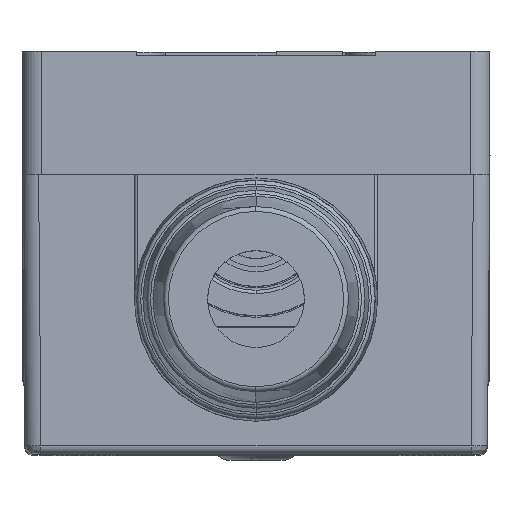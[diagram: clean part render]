
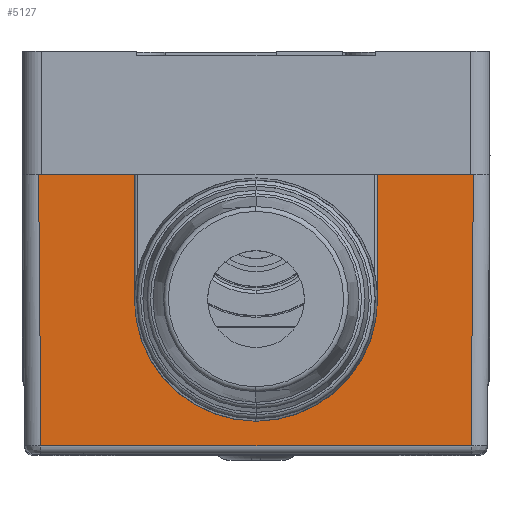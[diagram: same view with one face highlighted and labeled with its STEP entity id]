
A CAD part, top view. The second image highlights one B-rep face of the part: STEP entity #5127.
In plain terms, the highlighted planar face has unit normal (0, -0.009, 1).
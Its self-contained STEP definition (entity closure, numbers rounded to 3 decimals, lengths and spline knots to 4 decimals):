
#432=DIRECTION('',(1.,0.,0.));
#433=VECTOR('',#432,1.0311);
#434=CARTESIAN_POINT('',(-0.5136,-0.5414,
-1.3241));
#435=LINE('',#434,#433);
#681=DIRECTION('',(-0.009,1.,0.009));
#682=VECTOR('',#681,0.6971);
#683=CARTESIAN_POINT('',(-0.5136,-0.5414,
-1.3241));
#684=LINE('',#683,#682);
#685=CARTESIAN_POINT('',(-0.2224,-0.1908,
-1.3211));
#686=CARTESIAN_POINT('',(-0.2224,-0.2173,
-1.3213));
#687=CARTESIAN_POINT('',(-0.2129,-0.2744,
-1.3218));
#688=CARTESIAN_POINT('',(-0.1614,-0.3542,
-1.3225));
#689=CARTESIAN_POINT('',(-0.095,-0.397,
-1.3229));
#690=CARTESIAN_POINT('',(-0.0386,-0.4129,
-1.323));
#691=CARTESIAN_POINT('',(0.002,-0.4164,
-1.3231));
#692=CARTESIAN_POINT('',(0.0425,-0.4129,
-1.323));
#693=CARTESIAN_POINT('',(0.099,-0.397,
-1.3229));
#694=CARTESIAN_POINT('',(0.1654,-0.3542,
-1.3225));
#695=CARTESIAN_POINT('',(0.2168,-0.2744,
-1.3218));
#696=CARTESIAN_POINT('',(0.2264,-0.2173,
-1.3213));
#697=CARTESIAN_POINT('',(0.2264,-0.1908,
-1.3211));
#699=DIRECTION('',(-0.009,-1.,-0.009));
#700=VECTOR('',#699,0.6971);
#701=CARTESIAN_POINT('',(0.5236,0.1556,
-1.3181));
#702=LINE('',#701,#700);
#926=DIRECTION('',(1.,0.,0.));
#927=VECTOR('',#926,0.2972);
#928=CARTESIAN_POINT('',(0.2264,0.1556,
-1.3181));
#929=LINE('',#928,#927);
#988=DIRECTION('',(0.,-1.,-0.009));
#989=VECTOR('',#988,0.3465);
#990=CARTESIAN_POINT('',(0.2264,0.1556,
-1.3181));
#991=LINE('',#990,#989);
#1004=DIRECTION('',(0.,1.,0.009));
#1005=VECTOR('',#1004,0.3465);
#1006=CARTESIAN_POINT('',(-0.2224,-0.1908,
-1.3211));
#1007=LINE('',#1006,#1005);
#1020=DIRECTION('',(1.,0.,0.));
#1021=VECTOR('',#1020,0.2972);
#1022=CARTESIAN_POINT('',(-0.5197,0.1556,
-1.3181));
#1023=LINE('',#1022,#1021);
#3813=CARTESIAN_POINT('',(0.5175,-0.5414,
-1.3241));
#3814=VERTEX_POINT('',#3813);
#3815=CARTESIAN_POINT('',(-0.5136,-0.5414,
-1.3241));
#3816=VERTEX_POINT('',#3815);
#3884=CARTESIAN_POINT('',(0.5236,0.1556,
-1.3181));
#3885=VERTEX_POINT('',#3884);
#3886=CARTESIAN_POINT('',(0.2264,0.1556,
-1.3181));
#3887=VERTEX_POINT('',#3886);
#3888=CARTESIAN_POINT('',(0.2264,-0.1908,
-1.3211));
#3889=VERTEX_POINT('',#3888);
#3890=VERTEX_POINT('',#685);
#3891=CARTESIAN_POINT('',(-0.2224,0.1556,
-1.3181));
#3892=VERTEX_POINT('',#3891);
#3893=CARTESIAN_POINT('',(-0.5197,0.1556,
-1.3181));
#3894=VERTEX_POINT('',#3893);
#5106=CARTESIAN_POINT('',(0.002,-0.1929,
-1.3211));
#5107=DIRECTION('',(0.,-0.009,1.));
#5108=DIRECTION('',(-1.,0.,0.));
#5109=AXIS2_PLACEMENT_3D('',#5106,#5107,#5108);
#5110=PLANE('',#5109);
#5111=ORIENTED_EDGE('',*,*,#4678,.F.);
#5113=ORIENTED_EDGE('',*,*,#5112,.T.);
#5115=ORIENTED_EDGE('',*,*,#5114,.T.);
#5117=ORIENTED_EDGE('',*,*,#5116,.F.);
#5119=ORIENTED_EDGE('',*,*,#5118,.T.);
#5121=ORIENTED_EDGE('',*,*,#5120,.F.);
#5123=ORIENTED_EDGE('',*,*,#5122,.T.);
#5124=ORIENTED_EDGE('',*,*,#5098,.T.);
#5125=EDGE_LOOP('',(#5111,#5113,#5115,#5117,#5119,#5121,#5123,#5124));
#5126=FACE_OUTER_BOUND('',#5125,.F.);
#5127=ADVANCED_FACE('',(#5126),#5110,.T.);
#698=B_SPLINE_CURVE_WITH_KNOTS('',3,(#685,#686,#687,#688,#689,#690,#691,#692,
#693,#694,#695,#696,#697),.UNSPECIFIED.,.F.,.F.,(4,1,1,1,1,1,1,1,1,1,4),(0.,
0.125,0.25,0.375,0.4375,0.5,0.5625,0.625,0.75,0.875,1.),
.UNSPECIFIED.);
#4678=EDGE_CURVE('',#3816,#3814,#435,.T.);
#5098=EDGE_CURVE('',#3885,#3814,#702,.T.);
#5112=EDGE_CURVE('',#3816,#3894,#684,.T.);
#5114=EDGE_CURVE('',#3894,#3892,#1023,.T.);
#5116=EDGE_CURVE('',#3890,#3892,#1007,.T.);
#5118=EDGE_CURVE('',#3890,#3889,#698,.T.);
#5120=EDGE_CURVE('',#3887,#3889,#991,.T.);
#5122=EDGE_CURVE('',#3887,#3885,#929,.T.);
